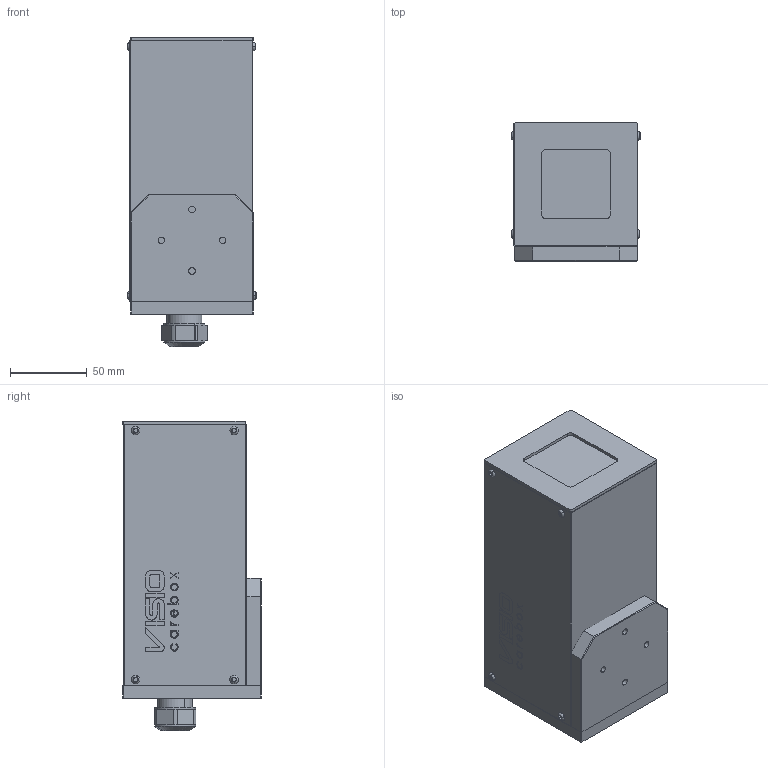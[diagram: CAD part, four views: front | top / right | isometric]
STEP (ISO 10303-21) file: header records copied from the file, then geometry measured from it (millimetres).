
FILE_DESCRIPTION (( 'STEP AP214' ), '1' );
FILE_NAME ('Standard_VCS-175_Test~0.STEP', '2010-07-13T18:44:47', ( 'Hansowitz' ), ( 'Di-Visio Ltd' ), 'SwSTEP 2.0', 'SolidWorks 2009', '' );
FILE_SCHEMA (( 'AUTOMOTIVE_DESIGN' ));
Length unit declared in the file: millimetre
Products named in the file (1): Standard_VCS-175_Test~0
Bounding box: 84.1 x 90 x 201.2 mm (x, y, z)
Volume: 390834.8 mm3; surface area: 197419.9 mm2
Topology: 22 solids, 22 shells, 1393 faces, 3521 edges, 2268 vertices
Faces by surface type: plane 630, bspline 334, cylinder 209, cone 164, torus 56
Entity records: 81659 total; most frequent: CARTESIAN_POINT 34477, ORIENTED_EDGE 6962, DIRECTION 5599, EDGE_CURVE 3481, VERTEX_POINT 2268, VECTOR 2075, LINE 2075, AXIS2_PLACEMENT_3D 1762
